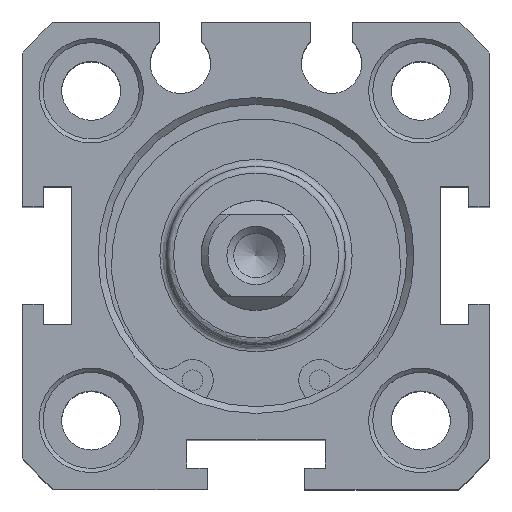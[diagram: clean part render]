
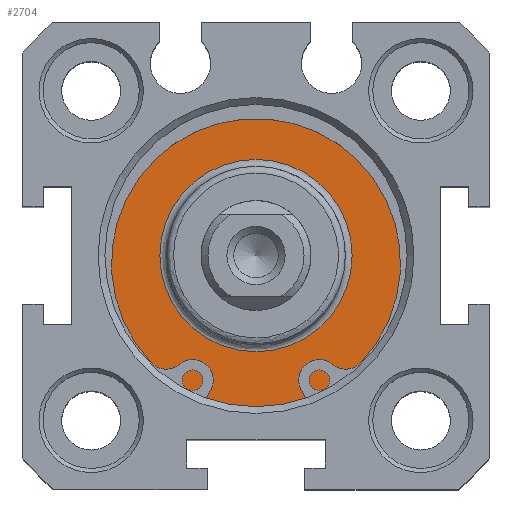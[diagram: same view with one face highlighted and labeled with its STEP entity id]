
A CAD part, top view. The second image highlights one B-rep face of the part: STEP entity #2704.
In plain terms, the highlighted planar face has unit normal (0, 0, 1).
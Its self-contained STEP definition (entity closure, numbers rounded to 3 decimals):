
#2653=CARTESIAN_POINT('',(0.24,8.683,36.8));
#2654=VERTEX_POINT('',#2653);
#2655=CARTESIAN_POINT('',(0.24,1.683,36.8));
#2656=DIRECTION('',(0.0,0.0,1.0));
#2657=DIRECTION('',(0.0,-1.0,0.0));
#2658=AXIS2_PLACEMENT_3D('',#2655,#2656,#2657);
#2659=CIRCLE('',#2658,7.);
#2660=EDGE_CURVE('',#2654,#2654,#2659,.T.);
#2685=CARTESIAN_POINT('',(0.24,10.433,36.8));
#2686=DIRECTION('',(0.0,0.0,1.0));
#2687=DIRECTION('',(1.0,0.0,0.0));
#2688=AXIS2_PLACEMENT_3D('',#2685,#2686,#2687);
#2689=PLANE('',#2688);
#2690=CARTESIAN_POINT('',(0.24,12.683,36.8));
#2691=VERTEX_POINT('',#2690);
#2692=CARTESIAN_POINT('',(0.24,1.683,36.8));
#2693=DIRECTION('',(0.0,0.0,-1.0));
#2694=DIRECTION('',(0.0,1.0,0.0));
#2695=AXIS2_PLACEMENT_3D('',#2692,#2693,#2694);
#2696=CIRCLE('',#2695,11.0);
#2697=EDGE_CURVE('',#2691,#2691,#2696,.T.);
#2698=ORIENTED_EDGE('',*,*,#2697,.F.);
#2699=EDGE_LOOP('',(#2698));
#2700=FACE_OUTER_BOUND('',#2699,.T.);
#2701=ORIENTED_EDGE('',*,*,#2660,.F.);
#2702=EDGE_LOOP('',(#2701));
#2703=FACE_BOUND('',#2702,.T.);
#2704=ADVANCED_FACE('',(#2700,#2703),#2689,.T.);
